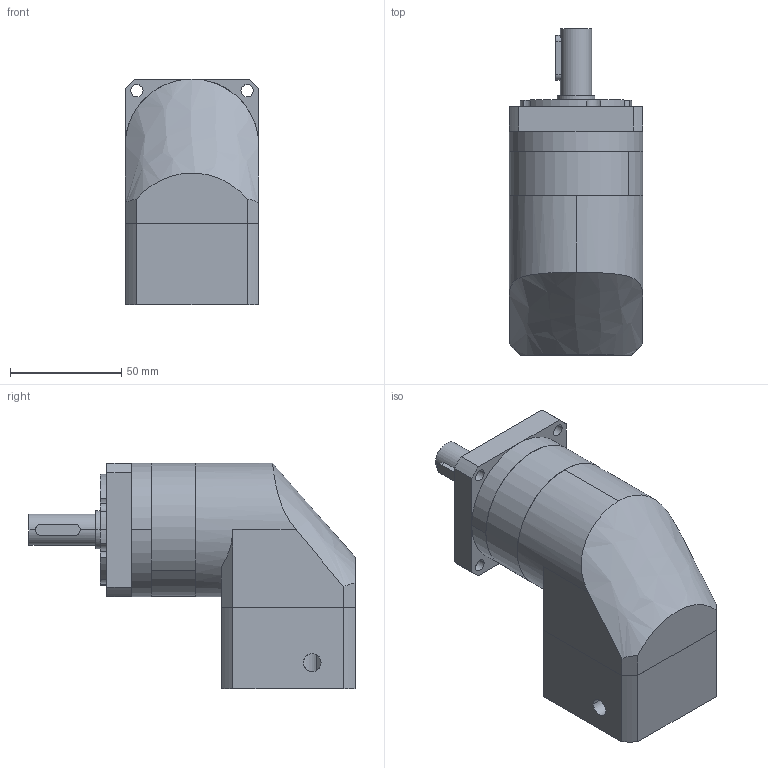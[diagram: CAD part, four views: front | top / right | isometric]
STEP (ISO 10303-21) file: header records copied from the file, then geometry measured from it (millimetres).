
FILE_DESCRIPTION (( 'STEP AP203' ), '1' );
FILE_NAME ('PVF060-L1-8-38.1-66.STEP', '2022-07-27T03:21:43', ( 'Windows User' ), ( 'P R C' ), 'SwSTEP 2.0', 'SolidWorks 2016', '' );
FILE_SCHEMA (( 'CONFIG_CONTROL_DESIGN' ));
Length unit declared in the file: millimetre
Products named in the file (9): PVFA060-蟀諉啣-38.1-M4-66.7; 囀鞠褒蹟佪-M5℅16; 邧埴瑩  5x5x20; PVFA060-眊极_揤翉; PVFA060 κｳﾝﾈｦ_ﾒｻｼｶﾄﾚｳﾝﾈｦ; PVF060-L1-8-38.1-66; PVFA060 奻屳唳_ 梓袧; PVFA060-薊粣-8; 双列角接触球轴承 5203_2
Assembly tree (8 placements, depth 2):
  PVF060-L1-8-38.1-66
    PVFA060 奻屳唳_ 梓袧
    PVFA060-薊粣-8
    双列角接触球轴承 5203_2
    PVFA060-蟀諉啣-38.1-M4-66.7
    囀鞠褒蹟佪-M5℅16
    邧埴瑩  5x5x20
    PVFA060-眊极_揤翉
    PVFA060 κｳﾝﾈｦ_ﾒｻｼｶﾄﾚｳﾝﾈｦ
Bounding box: 60 x 146.5 x 101.5 mm (x, y, z)
Volume: 425339.9 mm3; surface area: 94281.7 mm2
Topology: 8 solids, 8 shells, 1090 faces, 3083 edges, 1992 vertices
Faces by surface type: plane 561, bspline 321, cylinder 178, cone 30
Entity records: 47503 total; most frequent: CARTESIAN_POINT 20571, ORIENTED_EDGE 5970, DIRECTION 4486, EDGE_CURVE 2985, VERTEX_POINT 1992, VECTOR 1652, LINE 1652, AXIS2_PLACEMENT_3D 1417
